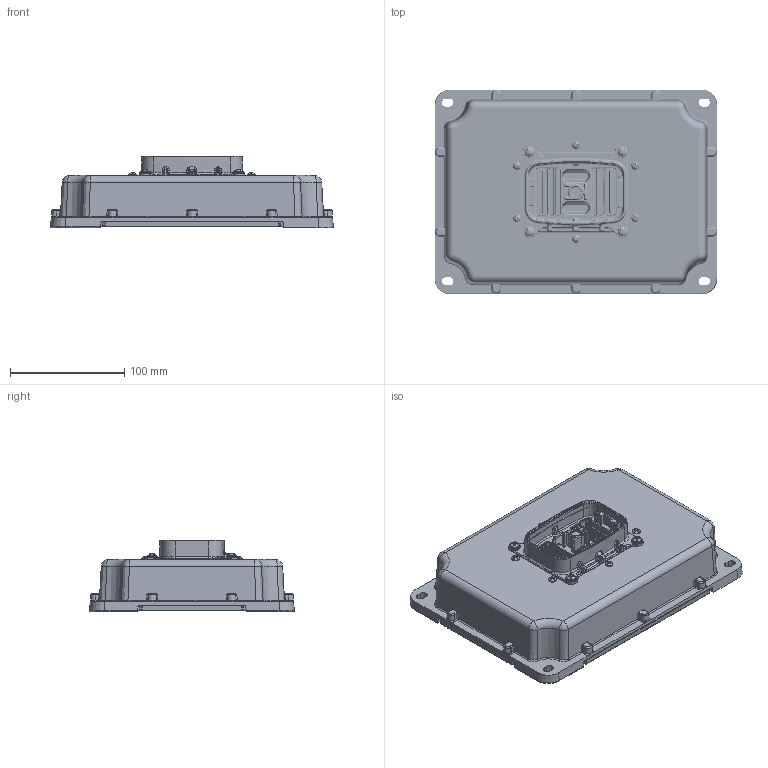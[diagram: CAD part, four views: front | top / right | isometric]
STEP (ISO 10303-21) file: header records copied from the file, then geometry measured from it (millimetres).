
FILE_DESCRIPTION(/* description */ (''),/* implementation_level */ '2;1');
FILE_NAME(/* name */ 'C:\Users\azhao\Documents\20011\MECHANICAL\Rev1\stp\MG-20011-01_2021-07-06.stp',/* time_stamp */ '2021-07-06T09:31:36-04:00',/* author */ ('azhao'),/* organization */ (''),/* preprocessor_version */ 'ST-DEVELOPER v17',/* originating_system */ 'Autodesk Inventor 2018',/* authorisation */ '');
FILE_SCHEMA (('AUTOMOTIVE_DESIGN { 1 0 10303 214 3 1 1 }'));
Length unit declared in the file: inch
Products named in the file (1): MG-20011-01_Shrinkwrap_1
Bounding box: 247.68 x 179.35 x 63 mm (x, y, z)
Volume: 489490.5 mm3; surface area: 278266.3 mm2
Topology: 1 solids, 23 shells, 4759 faces, 12162 edges, 7783 vertices
Faces by surface type: plane 2201, cylinder 1042, bspline 744, cone 349, torus 345, sphere 78
Full cylindrical faces by diameter (mm): 1.016 x80, 1.032 x80, 2.006 x6, 2.375 x6, 3.251 x72, 4 x40, 4.496 x10, 5.018 x4, 6.858 x6, 8.179 x4, 8.6 x1, 10 x4
Entity records: 201966 total; most frequent: CARTESIAN_POINT 85361, ORIENTED_EDGE 24236, DIRECTION 21784, EDGE_CURVE 12118, VERTEX_POINT 7783, AXIS2_PLACEMENT_3D 7592, LINE 6600, VECTOR 6600
